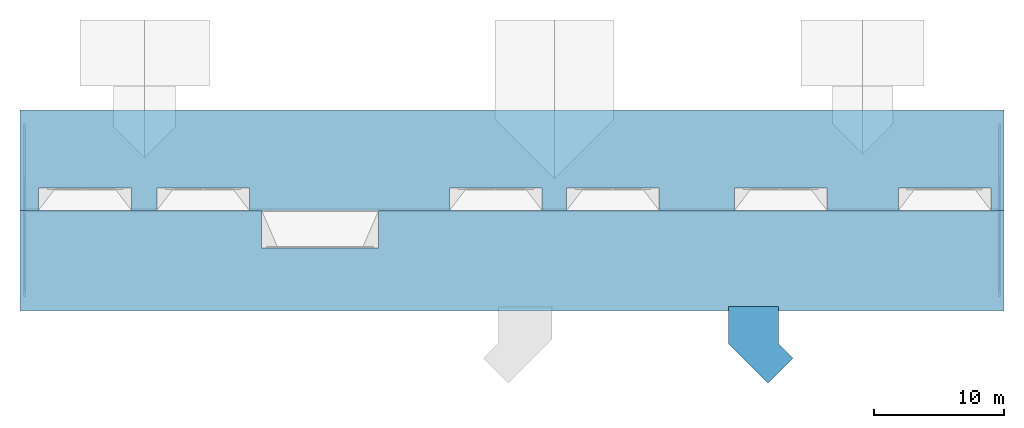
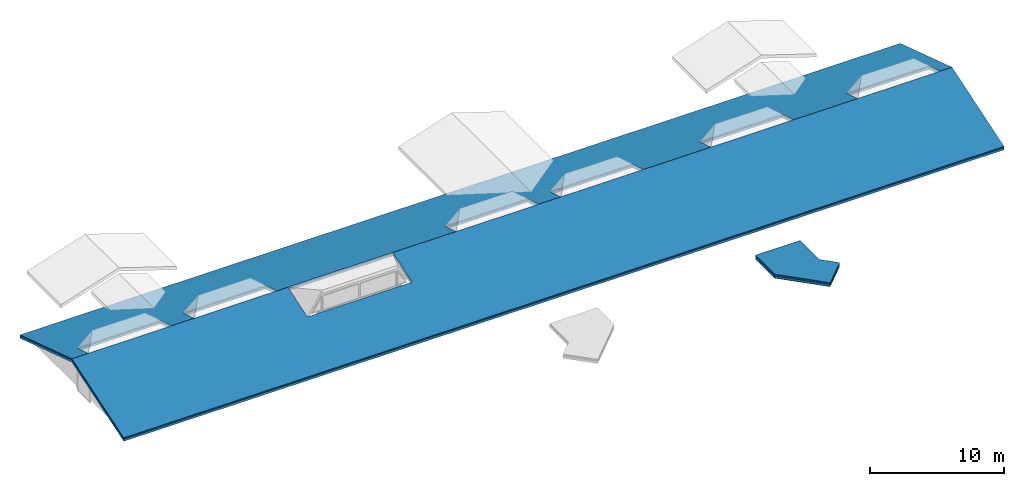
# One storey, part 7 of 7: 8 building element parts, 2 elements without a shape of their own.
"""IFC2X3 building model written with IfcOpenShell, lengths in millimetres."""

from ifc_helpers import new_model, entity, si_unit, converted_unit, derived_unit, money_unit, direction, frame, origin_with_axes, place, context, subcontext, project, spatial, faceted_brep, material, element, aggregate, save


model = new_model("IFC2X3")

# Units and contexts
model_context = context("Model", 3, precision=0.01, world=origin_with_axes(), true_north=direction((0.0, 1.0)))
body_context = subcontext(model_context, "Body", "Model", "MODEL_VIEW")
ifc_project = project(units=[si_unit("LENGTHUNIT", "METRE", prefix="MILLI"), si_unit("AREAUNIT", "SQUARE_METRE"), si_unit("VOLUMEUNIT", "CUBIC_METRE"), converted_unit("PLANEANGLEUNIT", "DEGREE", entity("IfcPlaneAngleMeasure", 0.0174532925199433), si_unit("PLANEANGLEUNIT", "RADIAN"), dimensions=[0, 0, 0, 0, 0, 0, 0]), money_unit("USD"), converted_unit("TIMEUNIT", "Year", entity("IfcTimeMeasure", 31557600.0), si_unit("TIMEUNIT", "SECOND"), dimensions=[0, 0, 1, 0, 0, 0, 0]), si_unit("MASSUNIT", "GRAM", prefix="KILO"), si_unit("THERMODYNAMICTEMPERATUREUNIT", "DEGREE_CELSIUS"), si_unit("LUMINOUSINTENSITYUNIT", "LUMEN"), si_unit("ENERGYUNIT", "JOULE", prefix="MEGA"), derived_unit("THERMALCONDUCTANCEUNIT", [(si_unit("POWERUNIT", "WATT"), 1), (si_unit("LENGTHUNIT", "METRE"), -1), (si_unit("THERMODYNAMICTEMPERATUREUNIT", "KELVIN"), -1)]), derived_unit("SPECIFICHEATCAPACITYUNIT", [(si_unit("ENERGYUNIT", "JOULE"), 1), (si_unit("MASSUNIT", "GRAM", prefix="KILO"), -1), (si_unit("THERMODYNAMICTEMPERATUREUNIT", "KELVIN"), -1)]), derived_unit("MASSDENSITYUNIT", [(si_unit("MASSUNIT", "GRAM", prefix="KILO"), 1), (si_unit("VOLUMEUNIT", "CUBIC_METRE"), -1)])], contexts=[model_context])

# Site, building, storey
site_placement = place(None, origin_with_axes())
site = spatial("IfcSite", under=ifc_project, at=site_placement, Name="Site", CompositionType="ELEMENT")
building_placement = place(site_placement, origin_with_axes())
building = spatial("IfcBuilding", under=site, at=building_placement, Name="Building", CompositionType="ELEMENT")
storey_placement = place(building_placement, frame((0.0, 0.0, 5900.0), z_axis=(0.0, 0.0, 1.0), x_axis=(1.0, 0.0, 0.0)))
storey = spatial("IfcBuildingStorey", under=building, at=storey_placement, Name="TAK", CompositionType="ELEMENT", Elevation=5900.0)

# Roof, building element parts
roof_1_placement = place(storey_placement, frame((54646.72069635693, 823.0564528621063, -3080.0), z_axis=(0.0, 0.0, 1.0), x_axis=(0.707106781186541, 0.707106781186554, 0.0)))
roof_1 = element("IfcRoof", 1, at=roof_1_placement, inside=storey, Name="RT - 001", ShapeType="NOTDEFINED")
ifc_material_1 = material(Name="Gravel")
building_element_part_1_placement = place(roof_1_placement, origin_with_axes())
building_element_part_1 = element("IfcBuildingElementPart", 2, at=building_element_part_1_placement, material=ifc_material_1, Name="Gravel", context=body_context, shape_type="Brep", body=[
    faceted_brep([(303.9100826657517, 4541.913134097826, 350.0000000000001), (303.9100826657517, 4541.913134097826, 379.9999999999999), (2319.163581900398, 6557.166633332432, 380.0000000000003), (2319.163581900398, 6557.166633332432, 350.0000000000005), (303.9101042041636, 267.6951193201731, 350.0000000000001), (303.9101042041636, 267.6951193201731, 379.9999999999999), (3003.533366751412, 267.6951193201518, 379.9999999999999), (3003.533380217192, 1842.289890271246, 379.9999999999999), (5018.786852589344, 3857.543362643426, 379.9999999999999), (5018.786852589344, 3857.543362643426, 350.0000000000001), (3003.533380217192, 1842.289890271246, 350.0000000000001), (3003.533366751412, 267.6951193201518, 350.0000000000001)], [[[0, 1, 2, 3]], [[4, 5, 1, 0]], [[2, 1, 5, 6, 7, 8]], [[3, 2, 8, 9]], [[3, 9, 10, 11, 4, 0]], [[11, 6, 5, 4]], [[10, 7, 6, 11]], [[9, 8, 7, 10]]]),
])
ifc_material_2 = material(Name="Insulation - Fiber Hard")
building_element_part_2_placement = place(roof_1_placement, origin_with_axes())
building_element_part_2 = element("IfcBuildingElementPart", 3, at=building_element_part_2_placement, material=ifc_material_2, Name="Insulation - Fiber Hard", context=body_context, shape_type="Brep", body=[
    faceted_brep([(303.9100826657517, 4541.913134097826, 224.9999999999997), (303.9100826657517, 4541.913134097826, 344.9999999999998), (2319.163581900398, 6557.166633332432, 345.0000000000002), (2319.163581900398, 6557.166633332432, 225.0000000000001), (303.9101042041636, 267.6951193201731, 224.9999999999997), (303.9101042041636, 267.6951193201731, 344.9999999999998), (3003.533366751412, 267.6951193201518, 344.9999999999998), (3003.533380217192, 1842.289890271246, 344.9999999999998), (5018.786852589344, 3857.543362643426, 344.9999999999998), (5018.786852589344, 3857.543362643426, 224.9999999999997), (3003.533380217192, 1842.289890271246, 224.9999999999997), (3003.533366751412, 267.6951193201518, 224.9999999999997)], [[[0, 1, 2, 3]], [[4, 5, 1, 0]], [[2, 1, 5, 6, 7, 8]], [[3, 2, 8, 9]], [[3, 9, 10, 11, 4, 0]], [[11, 6, 5, 4]], [[10, 7, 6, 11]], [[9, 8, 7, 10]]]),
])
ifc_material_3 = material(Name="Membrane - Vapor Barrier")
building_element_part_3_placement = place(roof_1_placement, origin_with_axes())
building_element_part_3 = element("IfcBuildingElementPart", 4, at=building_element_part_3_placement, material=ifc_material_3, Name="Membrane - Vapor Barrier", context=body_context, shape_type="Brep", body=[
    faceted_brep([(303.9100826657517, 4541.913134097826, 220.0000000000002), (303.9100826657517, 4541.913134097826, 225.0000000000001), (2319.163581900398, 6557.166633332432, 225.0000000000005), (2319.163581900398, 6557.166633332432, 220.0000000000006), (303.9101042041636, 267.6951193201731, 220.0000000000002), (303.9101042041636, 267.6951193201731, 225.0000000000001), (3003.533366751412, 267.6951193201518, 225.0000000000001), (3003.533380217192, 1842.289890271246, 225.0000000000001), (5018.786852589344, 3857.543362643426, 225.0000000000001), (5018.786852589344, 3857.543362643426, 220.0000000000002), (3003.533380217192, 1842.289890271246, 220.0000000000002), (3003.533366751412, 267.6951193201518, 220.0000000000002)], [[[0, 1, 2, 3]], [[4, 5, 1, 0]], [[2, 1, 5, 6, 7, 8]], [[3, 2, 8, 9]], [[3, 9, 10, 11, 4, 0]], [[11, 6, 5, 4]], [[10, 7, 6, 11]], [[9, 8, 7, 10]]]),
])
ifc_material_4 = material(Name="Plaster - Gypsum")
building_element_part_4_placement = place(roof_1_placement, origin_with_axes())
building_element_part_4 = element("IfcBuildingElementPart", 5, at=building_element_part_4_placement, material=ifc_material_4, Name="Plaster - Gypsum", context=body_context, shape_type="Brep", body=[
    faceted_brep([(2319.163581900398, 6557.166633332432, 0.0), (303.9100826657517, 4541.913134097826, 0.0), (303.9100826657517, 4541.913134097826, 20.00000000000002), (2319.163581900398, 6557.166633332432, 20.00000000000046), (5018.786852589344, 3857.543362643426, 0.0), (3003.533380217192, 1842.289890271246, 0.0), (3003.533366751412, 267.6951193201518, 0.0), (303.9101042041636, 267.6951193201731, 0.0), (303.9101042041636, 267.6951193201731, 20.00000000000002), (3003.533366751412, 267.6951193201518, 20.00000000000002), (3003.533380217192, 1842.289890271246, 20.00000000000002), (5018.786852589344, 3857.543362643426, 20.00000000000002)], [[[0, 1, 2, 3]], [[0, 4, 5, 6, 7, 1]], [[1, 7, 8, 2]], [[3, 2, 8, 9, 10, 11]], [[4, 0, 3, 11]], [[5, 4, 11, 10]], [[6, 5, 10, 9]], [[7, 6, 9, 8]]]),
])
ifc_material_5 = material(Name="Reinforced Concrete - Structural")
building_element_part_5_placement = place(roof_1_placement, origin_with_axes())
building_element_part_5 = element("IfcBuildingElementPart", 6, at=building_element_part_5_placement, material=ifc_material_5, Name="Reinforced Concrete - Structural", context=body_context, shape_type="Brep", body=[
    faceted_brep([(303.9100826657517, 4541.913134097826, 19.99999999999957), (303.9100826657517, 4541.913134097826, 219.9999999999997), (2319.163581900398, 6557.166633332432, 220.0000000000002), (2319.163581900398, 6557.166633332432, 20.00000000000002), (303.9101042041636, 267.6951193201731, 19.99999999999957), (303.9101042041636, 267.6951193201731, 219.9999999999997), (3003.533366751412, 267.6951193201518, 219.9999999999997), (3003.533380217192, 1842.289890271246, 219.9999999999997), (5018.786852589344, 3857.543362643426, 219.9999999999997), (5018.786852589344, 3857.543362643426, 19.99999999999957), (3003.533380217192, 1842.289890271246, 19.99999999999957), (3003.533366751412, 267.6951193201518, 19.99999999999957)], [[[0, 1, 2, 3]], [[4, 5, 1, 0]], [[2, 1, 5, 6, 7, 8]], [[3, 2, 8, 9]], [[3, 9, 10, 11, 4, 0]], [[11, 6, 5, 4]], [[10, 7, 6, 11]], [[9, 8, 7, 10]]]),
])
ifc_material_6 = material(Name="Membrane - Rainproof")
building_element_part_6_placement = place(roof_1_placement, origin_with_axes())
building_element_part_6 = element("IfcBuildingElementPart", 7, at=building_element_part_6_placement, material=ifc_material_6, Name="Membrane - Rainproof", context=body_context, shape_type="Brep", body=[
    faceted_brep([(303.9100826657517, 4541.913134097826, 345.0000000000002), (303.9100826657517, 4541.913134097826, 350.0000000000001), (2319.163581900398, 6557.166633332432, 350.0000000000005), (2319.163581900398, 6557.166633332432, 345.0000000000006), (303.9101042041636, 267.6951193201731, 345.0000000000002), (303.9101042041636, 267.6951193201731, 350.0000000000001), (3003.533366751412, 267.6951193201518, 350.0000000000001), (3003.533380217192, 1842.289890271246, 350.0000000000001), (5018.786852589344, 3857.543362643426, 350.0000000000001), (5018.786852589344, 3857.543362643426, 345.0000000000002), (3003.533380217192, 1842.289890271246, 345.0000000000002), (3003.533366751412, 267.6951193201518, 345.0000000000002)], [[[0, 1, 2, 3]], [[4, 5, 1, 0]], [[2, 1, 5, 6, 7, 8]], [[3, 2, 8, 9]], [[3, 9, 10, 11, 4, 0]], [[11, 6, 5, 4]], [[10, 7, 6, 11]], [[9, 8, 7, 10]]]),
])
aggregate(roof_1, [building_element_part_1, building_element_part_2, building_element_part_3, building_element_part_4, building_element_part_5, building_element_part_6])

roof_2_placement = place(storey_placement, frame((34994.86971369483, 14500.02954631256, -259.888257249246), z_axis=(0.0, 0.0, 1.0), x_axis=(1.0, 0.0, 0.0)))
roof_2 = element("IfcRoof", 8, at=roof_2_placement, inside=storey, Name="RT - 001", ShapeType="NOTDEFINED")
ifc_material_7 = material(Name="GENERIC - EXTERNAL MEMBRANE")
building_element_part_7_placement = place(roof_2_placement, origin_with_axes())
building_element_part_7 = element("IfcBuildingElementPart", 9, at=building_element_part_7_placement, material=ifc_material_7, Name="GENERIC - EXTERNAL MEMBRANE", context=body_context, shape_type="Brep", body=[
    faceted_brep([(36805.13028630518, 0.03321517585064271, 2723.831959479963), (37815.13028646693, 0.03321517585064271, 2723.831959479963), (37815.13028657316, 7720.095978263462, 218.0326164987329), (-37815.13028657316, 7720.095978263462, 218.0326164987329), (-37815.13028723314, 0.03321517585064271, 2723.831959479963), (-36394.86971369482, 0.03321517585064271, 2723.831959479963), (-36394.86971369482, 1699.970453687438, 2172.061624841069), (-29244.86971369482, 1699.970453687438, 2172.061624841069), (-29244.86971369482, 0.03321517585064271, 2723.831959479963), (-27294.86971369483, 0.03321517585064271, 2723.831959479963), (-27294.86971369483, 99.97045368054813, 2691.394054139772), (-27294.86971375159, 1699.970453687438, 2172.061624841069), (-20194.86971369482, 1699.970453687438, 2172.061624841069), (-20194.86971369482, 1583.422116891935, 2209.891206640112), (-20194.86971369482, 99.97045368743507, 2691.394054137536), (-20194.86971346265, 69.59593468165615, 2701.253099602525), (-20194.86971293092, 0.03321517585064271, 2723.831959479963), (-19244.86971369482, 0.03321517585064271, 2723.831959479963), (-10244.86971369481, 0.03321517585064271, 2723.831959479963), (-4794.869713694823, 0.03321517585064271, 2723.831959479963), (-4794.869713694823, 1699.970453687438, 2172.061624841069), (2305.130286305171, 1699.970453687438, 2172.061624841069), (2305.130286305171, 0.03321517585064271, 2723.831959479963), (4205.130286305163, 0.03321517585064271, 2723.831959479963), (4205.130286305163, 1699.970453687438, 2172.061624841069), (11305.13028630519, 1699.970453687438, 2172.061624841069), (11305.13028630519, 0.03321517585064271, 2723.831959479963), (17105.13028630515, 0.03321517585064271, 2723.831959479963), (17105.13028630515, 1699.970453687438, 2172.061624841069), (24205.13028630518, 1699.970453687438, 2172.061624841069), (24205.13028630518, 0.03321517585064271, 2723.831959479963), (29705.13028630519, 0.03321517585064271, 2723.831959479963), (29705.13028630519, 1699.970453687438, 2172.061624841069), (36805.13028630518, 1699.970453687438, 2172.061624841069), (-10244.86971369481, -2885.405927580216, 1787.268134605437), (-19244.86971369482, -2885.405927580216, 1787.268134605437), (-37815.13028657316, -7720.095978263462, 218.0110538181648), (37815.13028657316, -7720.095978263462, 218.0110538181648), (37815.13028608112, 0.03321475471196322, 2618.696144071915), (37815.13028685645, 7720.095978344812, 112.8968012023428), (-37815.13028684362, 7720.095978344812, 112.8968012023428), (-37815.13028761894, 0.03321475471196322, 2618.696144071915), (-36394.86971403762, 0.03321475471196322, 2618.696144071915), (-36394.86971403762, 1699.970453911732, 2066.92580949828), (-29244.86971366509, 1699.970453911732, 2066.92580949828), (-29244.86971366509, 0.03321475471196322, 2618.696144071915), (-27294.86971347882, 0.03321475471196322, 2618.696144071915), (-27294.86971347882, 69.09774240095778, 2596.27898896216), (-27294.86971347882, 1699.970453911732, 2066.92580949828), (-20194.86971385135, 1699.970453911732, 2066.92580949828), (-20194.86971385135, 1552.549405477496, 2114.776141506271), (-20194.86971385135, 69.09774240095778, 2596.27898896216), (-20194.86971385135, 38.72322380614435, 2606.138034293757), (-20194.86971333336, 0.03321475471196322, 2618.696144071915), (-10244.86971351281, 0.03321475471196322, 2618.696144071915), (-19244.86971351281, 0.03321475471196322, 2618.696144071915), (-4794.869713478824, 0.03321475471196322, 2618.696144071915), (-4794.869713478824, 1699.970453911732, 2066.92580949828), (2305.130286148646, 1699.970453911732, 2066.92580949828), (2305.130286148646, 0.03321475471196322, 2618.696144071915), (4205.130286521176, 0.03321475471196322, 2618.696144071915), (4205.130286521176, 1699.970453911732, 2066.92580949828), (11305.13028614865, 1699.970453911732, 2066.92580949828), (11305.13028614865, 0.03321475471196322, 2618.696144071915), (17105.13028596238, 0.03321475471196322, 2618.696144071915), (17105.13028596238, 1699.970453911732, 2066.92580949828), (24205.13028652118, 1699.970453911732, 2066.92580949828), (24205.13028652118, 0.03321475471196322, 2618.696144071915), (29705.13028652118, 0.03321475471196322, 2618.696144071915), (29705.13028652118, 1699.970453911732, 2066.92580949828), (36805.13028614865, 1699.970453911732, 2066.92580949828), (36805.13028614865, 0.03321475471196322, 2618.696144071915), (-10244.86971351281, -2885.405927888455, 1682.132319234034), (-19244.86971351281, -2885.405927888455, 1682.132319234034), (-37815.13028668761, -7720.095978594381, 112.8752384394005), (37815.13028701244, -7720.095978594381, 112.8752384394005)], [[[0, 1, 2, 3, 4, 5, 6, 7, 8, 9, 10, 11, 12, 13, 14, 15, 16, 17, 18, 19, 20, 21, 22, 23, 24, 25, 26, 27, 28, 29, 30, 31, 32, 33]], [[1, 0, 31, 30, 27, 26, 23, 22, 19, 18, 34, 35, 17, 16, 9, 8, 5, 4, 36, 37]], [[1, 38, 39, 2]], [[40, 3, 2, 39]], [[41, 4, 3, 40]], [[5, 42, 43, 6]], [[44, 7, 6, 43]], [[45, 8, 7, 44]], [[9, 46, 47, 10]], [[48, 11, 10, 47]], [[49, 12, 11, 48]], [[50, 13, 12, 49]], [[51, 14, 13, 50]], [[52, 15, 14, 51]], [[53, 16, 15, 52]], [[54, 18, 17, 55]], [[19, 56, 57, 20]], [[58, 21, 20, 57]], [[59, 22, 21, 58]], [[23, 60, 61, 24]], [[62, 25, 24, 61]], [[63, 26, 25, 62]], [[27, 64, 65, 28]], [[66, 29, 28, 65]], [[67, 30, 29, 66]], [[31, 68, 69, 32]], [[70, 33, 32, 69]], [[71, 0, 33, 70]], [[0, 71, 68, 31]], [[30, 67, 64, 27]], [[26, 63, 60, 23]], [[22, 59, 56, 19]], [[18, 54, 72, 34]], [[73, 35, 34, 72]], [[55, 17, 35, 73]], [[16, 53, 46, 9]], [[8, 45, 42, 5]], [[4, 41, 74, 36]], [[75, 37, 36, 74]], [[38, 1, 37, 75]], [[38, 71, 70, 69, 68, 67, 66, 65, 64, 63, 62, 61, 60, 59, 58, 57, 56, 54, 55, 53, 52, 51, 50, 49, 48, 47, 46, 45, 44, 43, 42, 41, 40, 39]], [[71, 38, 75, 74, 41, 42, 45, 46, 53, 55, 73, 72, 54, 56, 59, 60, 63, 64, 67, 68]]]),
])
ifc_material_8 = material(Name="GENERIC - PREFABRICATED")
building_element_part_8_placement = place(roof_2_placement, origin_with_axes())
building_element_part_8 = element("IfcBuildingElementPart", 10, at=building_element_part_8_placement, material=ifc_material_8, Name="GENERIC - PREFABRICATED", context=body_context, shape_type="Brep", body=[
    faceted_brep([(36805.130286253, 0.03321503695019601, 2618.696143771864), (37815.13028634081, 0.03321503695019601, 2618.696143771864), (37815.13028666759, 7720.095978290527, 112.896800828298), (-37815.13028666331, 7720.095978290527, 112.896800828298), (-37815.13028735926, 0.03321503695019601, 2618.696143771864), (-36394.86971380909, 0.03321503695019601, 2618.696143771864), (-36394.86971380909, 1699.970453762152, 2066.92580915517), (-29244.86971368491, 1699.970453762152, 2066.92580915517), (-29244.86971368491, 0.03321503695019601, 2618.696143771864), (-27294.86971362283, 0.03321503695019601, 2618.696143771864), (-27294.86971362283, 69.09774235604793, 2596.278988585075), (-27294.86971366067, 1699.970453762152, 2066.92580915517), (-20194.869713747, 1699.970453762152, 2066.92580915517), (-20194.869713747, 1552.549405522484, 2114.776141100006), (-20194.869713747, 69.09774236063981, 2596.278988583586), (-20194.86971363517, 38.72322352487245, 2606.138033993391), (-20194.86971333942, 0.03321503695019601, 2618.696143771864), (-19244.86971363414, 0.03321503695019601, 2618.696143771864), (-10244.86971363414, 0.03321503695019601, 2618.696143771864), (-4794.869713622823, 0.03321503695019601, 2618.696143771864), (-4794.869713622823, 1699.970453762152, 2066.92580915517), (2305.130286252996, 1699.970453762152, 2066.92580915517), (2305.130286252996, 0.03321503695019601, 2618.696143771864), (4205.13028637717, 0.03321503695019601, 2618.696143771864), (4205.13028637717, 1699.970453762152, 2066.92580915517), (11305.130286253, 1699.970453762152, 2066.92580915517), (11305.130286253, 0.03321503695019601, 2618.696143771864), (17105.1302861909, 0.03321503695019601, 2618.696143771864), (17105.1302861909, 1699.970453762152, 2066.92580915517), (24205.13028637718, 1699.970453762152, 2066.92580915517), (24205.13028637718, 0.03321503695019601, 2618.696143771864), (29705.13028637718, 0.03321503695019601, 2618.696143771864), (29705.13028637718, 1699.970453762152, 2066.92580915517), (36805.130286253, 1699.970453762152, 2066.92580915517), (-10244.86971363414, -2885.405927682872, 1682.132318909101), (-19244.86971363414, -2885.405927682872, 1682.132318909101), (-37815.13028660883, -7720.095978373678, 112.8752381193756), (37815.13028672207, -7720.095978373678, 112.8752381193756), (37815.13028608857, 0.03321475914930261, 2408.424512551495), (37815.13028685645, 7720.09597834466, -97.37483031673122), (-37815.13028684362, 7720.09597834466, -97.37483031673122), (-37815.13028761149, 0.03321475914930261, 2408.424512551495), (-36394.86971403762, 0.03321475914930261, 2408.424512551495), (-36394.86971403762, 1699.970453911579, 1856.654177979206), (-29244.86971366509, 1699.970453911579, 1856.654177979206), (-29244.86971366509, 0.03321475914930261, 2408.424512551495), (-27294.86971347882, 0.03321475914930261, 2408.424512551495), (-27294.86971347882, 7.352319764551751, 2406.04885765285), (-27294.86971347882, 1699.970453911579, 1856.654177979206), (-20194.86971385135, 1699.970453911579, 1856.654177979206), (-20194.86971385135, 1490.803982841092, 1924.546010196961), (-20194.86971385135, 7.352319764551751, 2406.04885765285), (-20194.86971385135, 0.03321475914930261, 2408.424512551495), (-20194.86971385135, 0.0332148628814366, 2486.938826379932), (-10244.86971351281, 0.03321475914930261, 2408.424512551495), (-19244.86971351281, 0.03321475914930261, 2408.424512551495), (-4794.869713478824, 0.03321475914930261, 2408.424512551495), (-4794.869713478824, 1699.970453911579, 1856.654177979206), (2305.130286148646, 1699.970453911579, 1856.654177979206), (2305.130286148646, 0.03321475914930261, 2408.424512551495), (4205.130286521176, 0.03321475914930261, 2408.424512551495), (4205.130286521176, 1699.970453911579, 1856.654177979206), (11305.13028614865, 1699.970453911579, 1856.654177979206), (11305.13028614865, 0.03321475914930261, 2408.424512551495), (17105.13028596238, 0.03321475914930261, 2408.424512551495), (17105.13028596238, 1699.970453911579, 1856.654177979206), (24205.13028652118, 1699.970453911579, 1856.654177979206), (24205.13028652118, 0.03321475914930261, 2408.424512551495), (29705.13028652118, 0.03321475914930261, 2408.424512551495), (29705.13028652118, 1699.970453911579, 1856.654177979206), (36805.13028614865, 1699.970453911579, 1856.654177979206), (36805.13028614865, 0.03321475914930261, 2408.424512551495), (-10244.86971351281, -2885.405927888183, 1471.860687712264), (-19244.86971351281, -2885.405927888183, 1471.860687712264), (-37815.13028668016, -7720.09597859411, -97.3963930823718), (37815.13028701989, -7720.09597859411, -97.3963930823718)], [[[0, 1, 2, 3, 4, 5, 6, 7, 8, 9, 10, 11, 12, 13, 14, 15, 16, 17, 18, 19, 20, 21, 22, 23, 24, 25, 26, 27, 28, 29, 30, 31, 32, 33]], [[1, 0, 31, 30, 27, 26, 23, 22, 19, 18, 34, 35, 17, 16, 9, 8, 5, 4, 36, 37]], [[1, 38, 39, 2]], [[3, 2, 39, 40]], [[41, 4, 3, 40]], [[5, 42, 43, 6]], [[7, 6, 43, 44]], [[45, 8, 7, 44]], [[9, 46, 47, 10]], [[11, 10, 47, 48]], [[12, 11, 48, 49]], [[13, 12, 49, 50]], [[14, 13, 50, 51]], [[52, 53, 15, 14, 51]], [[53, 16, 15]], [[54, 18, 17, 55]], [[19, 56, 57, 20]], [[21, 20, 57, 58]], [[59, 22, 21, 58]], [[23, 60, 61, 24]], [[25, 24, 61, 62]], [[63, 26, 25, 62]], [[27, 64, 65, 28]], [[29, 28, 65, 66]], [[67, 30, 29, 66]], [[31, 68, 69, 32]], [[33, 32, 69, 70]], [[71, 0, 33, 70]], [[0, 71, 68, 31]], [[30, 67, 64, 27]], [[26, 63, 60, 23]], [[22, 59, 56, 19]], [[18, 54, 72, 34]], [[35, 34, 72, 73]], [[55, 17, 35, 73]], [[16, 53, 52, 46, 9]], [[8, 45, 42, 5]], [[4, 41, 74, 36]], [[37, 36, 74, 75]], [[38, 1, 37, 75]], [[38, 71, 70, 69, 68, 67, 66, 65, 64, 63, 62, 61, 60, 59, 58, 57, 56, 54, 55, 52, 51, 50, 49, 48, 47, 46, 45, 44, 43, 42, 41, 40, 39]], [[71, 38, 75, 74, 41, 42, 45, 46, 52, 55, 73, 72, 54, 56, 59, 60, 63, 64, 67, 68]]]),
])
aggregate(roof_2, [building_element_part_7, building_element_part_8])

save(model, "model.ifc")
